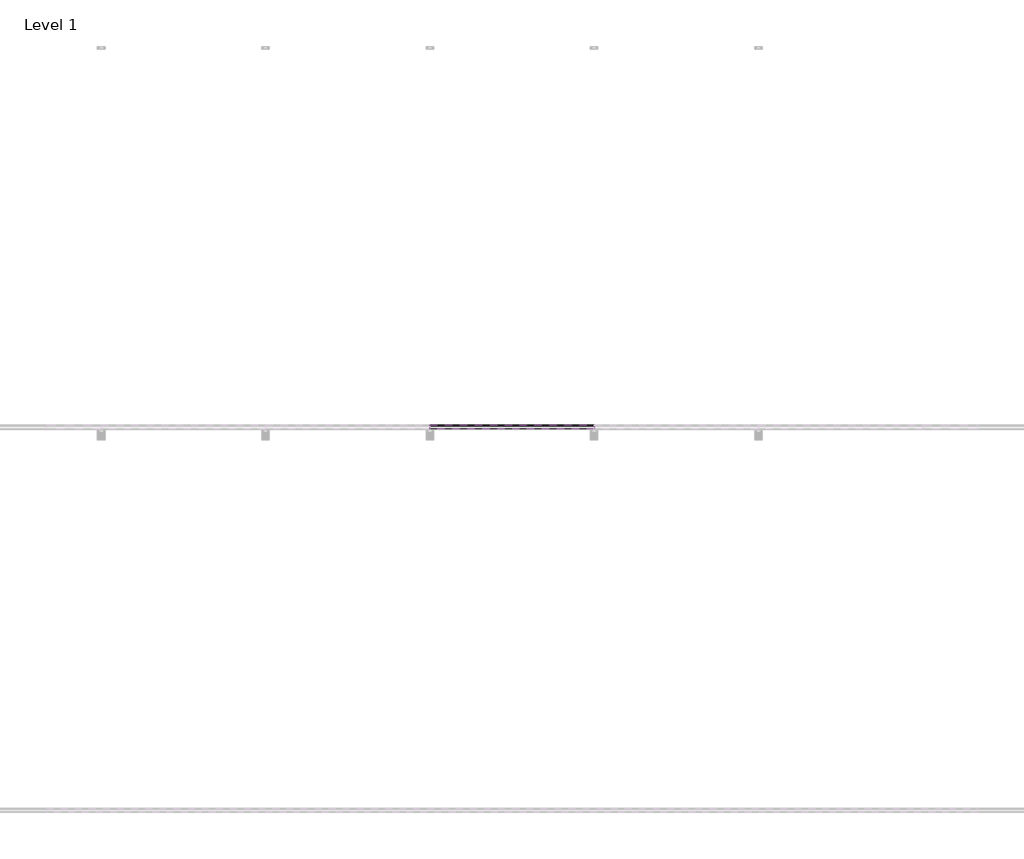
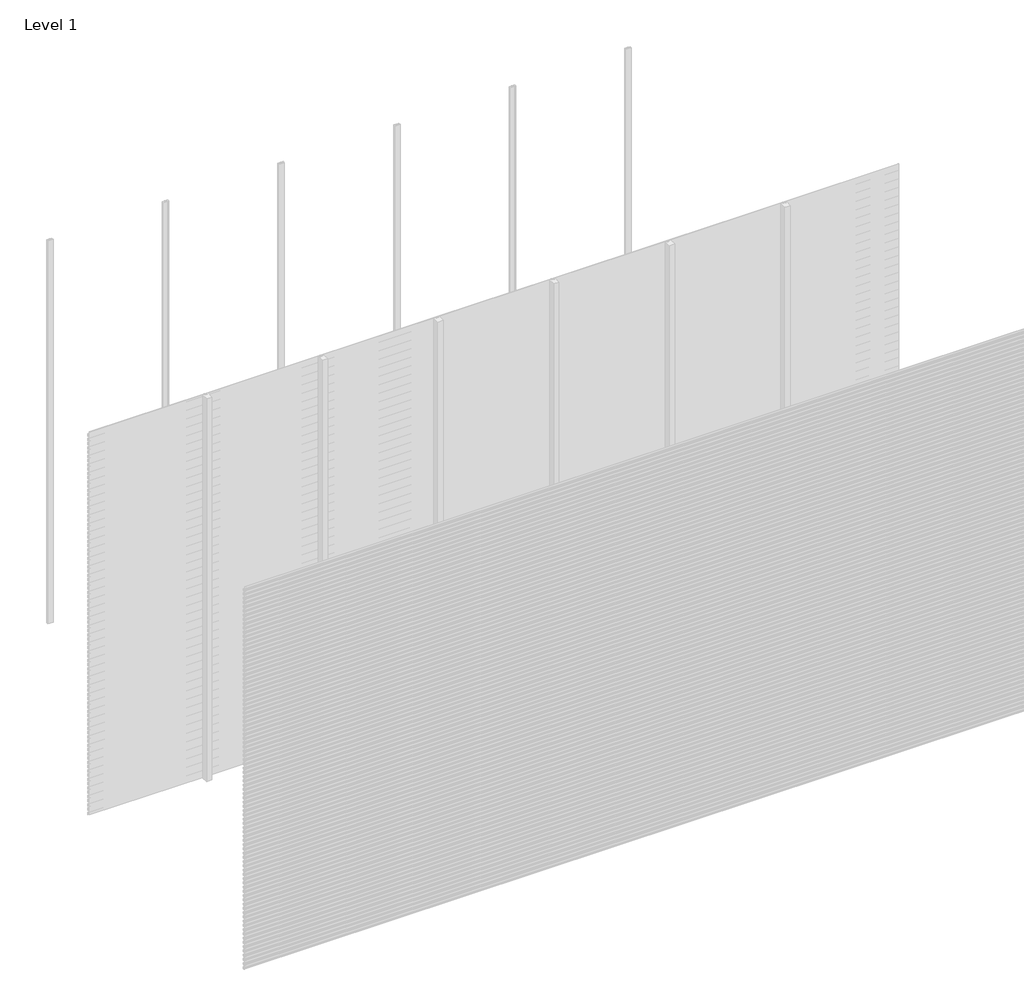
# One storey, part 46 of 96: 76 proxies.
"""IFC4 building model written with IfcOpenShell, lengths in millimetres."""

import ifcopenshell
import ifcopenshell.guid

model = None  # the IFC model being written
_history = None  # IfcOwnerHistory: only IFC2X3 demands one
_inside = {}  # id of a spatial element -> (the spatial element, [elements in it])
_under = {}  # id of a project, library or spatial element -> (it, [spatial elements below it])
_declared = {}  # id of a project -> (the project, [libraries it declares])
_typed = {}  # id of a type object -> (the type object, [elements of that type])
_made_of = {}  # id of a material, layer set ... -> (it, [elements and type objects made of it])


def new_model(schema):
    """Start an empty IFC model of exactly this schema.

    Asked for "IFC4X3", IfcOpenShell would pick the latest addendum, in which some entities
    have other attributes; the version numbers below select the first issue.
    IFC2X3 requires an IfcOwnerHistory on every rooted entity: one is made here for all.
    """
    global model, _history
    if schema == "IFC4X3":
        model = ifcopenshell.file(schema_version=(4, 3, 0, 0))
    else:
        model = ifcopenshell.file(schema=schema)
    _inside.clear()
    _under.clear()
    _declared.clear()
    _typed.clear()
    _made_of.clear()
    _history = None
    if model.schema == "IFC2X3":
        org = make("IfcOrganization", Name="unknown")
        user = make(
            "IfcPersonAndOrganization",
            ThePerson=make("IfcPerson", FamilyName="unknown"),
            TheOrganization=org,
        )
        app = make(
            "IfcApplication",
            ApplicationDeveloper=org,
            Version="unknown",
            ApplicationFullName="unknown",
            ApplicationIdentifier="unknown",
        )
        _history = make(
            "IfcOwnerHistory",
            OwningUser=user,
            OwningApplication=app,
            ChangeAction="ADDED",
            CreationDate=0,
        )
    return model


def make(cls, **values):
    """One entity of the class cls with the attributes given. An attribute that is None is left unset."""
    return model.create_entity(
        cls, **{name: value for name, value in values.items() if value is not None}
    )


def rooted(cls, **values):
    """An entity with a GlobalId (a new one), such as an element, a storey or a relation."""
    return make(cls, GlobalId=ifcopenshell.guid.new(), OwnerHistory=_history, **values)


def si_unit(unit_type, name, prefix=None):
    """IfcSIUnit, for example si_unit("LENGTHUNIT", "METRE", prefix="MILLI")."""
    return make("IfcSIUnit", UnitType=unit_type, Prefix=prefix, Name=name)


def assignment(units):
    """IfcUnitAssignment: the units of a project."""
    return None if units is None else make("IfcUnitAssignment", Units=units)


def point(xyz):
    """IfcCartesianPoint."""
    return None if xyz is None else make("IfcCartesianPoint", Coordinates=xyz)


def direction(xyz):
    """IfcDirection."""
    return None if xyz is None else make("IfcDirection", DirectionRatios=xyz)


def frame(location, z_axis=None, x_axis=None):
    """IfcAxis2Placement3D, a coordinate frame: its origin and axes. An axis left out is left unset."""
    return make(
        "IfcAxis2Placement3D",
        Location=point(location),
        Axis=direction(z_axis),
        RefDirection=direction(x_axis),
    )


def origin():
    """The frame at (0, 0, 0) with its axes left unset."""
    return frame((0.0, 0.0, 0.0))


def place(relative_to, where):
    """IfcLocalPlacement: puts the frame where relative to a parent placement (None: the world)."""
    return make(
        "IfcLocalPlacement", PlacementRelTo=relative_to, RelativePlacement=where
    )


def context(
    kind, dimensions, precision=None, world=None, true_north=None, identifier=None
):
    """IfcGeometricRepresentationContext, for example the 3D "Model" context."""
    return make(
        "IfcGeometricRepresentationContext",
        ContextIdentifier=identifier,
        ContextType=kind,
        CoordinateSpaceDimension=dimensions,
        Precision=precision,
        WorldCoordinateSystem=world,
        TrueNorth=true_north,
    )


def project(units=None, contexts=None):
    """IfcProject with its units and contexts."""
    return rooted(
        "IfcProject",
        Name="project",
        RepresentationContexts=contexts,
        UnitsInContext=assignment(units),
    )


def spatial(cls, under=None, at=None, **own):
    """A site, building, storey or space (cls), placed at a placement, below another one or the project."""
    s = rooted(cls, ObjectPlacement=at, **own)
    if under is not None:
        _under.setdefault(under.id(), (under, []))[1].append(s)
    return s


def polyline(points):
    """IfcPolyline through the points."""
    return make("IfcPolyline", Points=[point(p) for p in points])


def outline(outer, holes=None, kind="AREA"):
    """IfcArbitraryClosedProfileDef: a profile drawn as a closed curve; with holes, ...WithVoids."""
    if holes is None:
        return make("IfcArbitraryClosedProfileDef", ProfileType=kind, OuterCurve=outer)
    return make(
        "IfcArbitraryProfileDefWithVoids",
        ProfileType=kind,
        OuterCurve=outer,
        InnerCurves=holes,
    )


def extrude(swept, where, along, depth):
    """IfcExtrudedAreaSolid: the profile swept, set in the frame where, extruded along a direction by depth."""
    return make(
        "IfcExtrudedAreaSolid",
        SweptArea=swept,
        Position=where,
        ExtrudedDirection=direction(along),
        Depth=depth,
    )


def shape(context_of_items, identifier, shape_type, items):
    """IfcShapeRepresentation: the items that make up one representation, for example the "Body"."""
    return make(
        "IfcShapeRepresentation",
        ContextOfItems=context_of_items,
        RepresentationIdentifier=identifier,
        RepresentationType=shape_type,
        Items=items,
    )


def made_of(thing, what):
    """Note that an element or type object is made of a material, layer set ...; save() writes the relation."""
    if what is not None:
        _made_of.setdefault(what.id(), (what, []))[1].append(thing)
    return thing


def element(
    cls,
    number,
    at=None,
    inside=None,
    cuts=None,
    type_object=None,
    material=None,
    context=None,
    identifier="Body",
    shape_type=None,
    held_by="IfcProductDefinitionShape",
    body=None,
    shapes=None,
    **own,
):
    """One element of the class cls, such as IfcWall. Its Tag is "e" and its number.

    at: its placement. inside: the storey or other place that contains it. cuts: it is an
    opening in that element (IfcRelVoidsElement). A single representation is given by context,
    identifier, shape_type and body (its items); several are given by shapes. held_by: the class
    of the entity that holds the representations. save() writes the other relations.
    """
    e = rooted(cls, Tag="e%d" % number, ObjectPlacement=at, **own)
    if body is not None:
        shapes = [shape(context, identifier, shape_type, body)]
    if shapes is not None:
        e.Representation = make(held_by, Representations=shapes)
    if inside is not None:
        _inside.setdefault(inside.id(), (inside, []))[1].append(e)
    if cuts is not None:
        rooted(
            "IfcRelVoidsElement", RelatingBuildingElement=cuts, RelatedOpeningElement=e
        )
    if type_object is not None:
        _typed.setdefault(type_object.id(), (type_object, []))[1].append(e)
    return made_of(e, material)


def aggregate(whole, parts):
    """IfcRelAggregates: a whole, such as a stair, and the parts it consists of."""
    return rooted("IfcRelAggregates", RelatingObject=whole, RelatedObjects=parts)


def save(model, path):
    """Write the relations noted so far, then the file.

    IfcRelAggregates (storeys below a building ...), IfcRelContainedInSpatialStructure (elements
    in a storey), IfcRelDefinesByType, IfcRelAssociatesMaterial and IfcRelDeclares: one each for
    every whole, place, type object, material and project.
    """
    for whole, parts in _under.values():
        aggregate(whole, parts)
    for where, things in _inside.values():
        rooted(
            "IfcRelContainedInSpatialStructure",
            RelatedElements=things,
            RelatingStructure=where,
        )
    for kind, things in _typed.values():
        rooted("IfcRelDefinesByType", RelatedObjects=things, RelatingType=kind)
    for what, things in _made_of.values():
        rooted("IfcRelAssociatesMaterial", RelatedObjects=things, RelatingMaterial=what)
    for by, libraries in _declared.values():
        rooted("IfcRelDeclares", RelatingContext=by, RelatedDefinitions=libraries)
    model.write(path)


model = new_model("IFC4")

# Units and contexts
model_context = context("Model", 3, world=origin())
ifc_project = project(units=[si_unit("LENGTHUNIT", "METRE", prefix="MILLI")], contexts=[model_context])

# Site, building, storey
site = spatial("IfcSite", under=ifc_project)
building = spatial("IfcBuilding", under=site)
storey = spatial("IfcBuildingStorey", under=building, Name="Level 1", Elevation=0.0)

# Proxies
placement = place(None, origin())
element("IfcBuildingElementProxy", 1, Name="Wall Sweeps", at=placement, inside=storey, context=model_context, shape_type="SweptSolid", body=[
    extrude(outline(polyline([(-29977.6, 2938.4655033), (-29977.6, 2924.1779188), (-29982.4114965, 2921.4), (-29982.4114965, 2922.6701706), (-29978.85, 2924.7264016), (-29978.85, 2937.7437382), (-29998.0, 2948.8000799), (-29998.0, 2963.7), (-29996.75, 2963.7), (-29996.75, 2949.5217609), (-29977.6, 2938.4655033)])), frame((2571.4285714, 0.0, 0.0), z_axis=(1.0, 0.0, 0.0), x_axis=(0.0, 1.0, 0.0)), (0.0, 0.0, 1.0), 857.1428571),
])
element("IfcBuildingElementProxy", 2, Name="Wall Sweeps", at=placement, inside=storey, context=model_context, shape_type="SweptSolid", body=[
    extrude(outline(polyline([(-29977.6, 2905.1655033), (-29977.6, 2890.8779188), (-29982.4114965, 2888.1), (-29982.4114965, 2889.3701706), (-29978.85, 2891.4264016), (-29978.85, 2904.4437382), (-29998.0, 2915.5000799), (-29998.0, 2930.4), (-29996.75, 2930.4), (-29996.75, 2916.2217609), (-29977.6, 2905.1655033)])), frame((2571.4285714, 0.0, 0.0), z_axis=(1.0, 0.0, 0.0), x_axis=(0.0, 1.0, 0.0)), (0.0, 0.0, 1.0), 857.1428571),
])
element("IfcBuildingElementProxy", 3, Name="Wall Sweeps", at=placement, inside=storey, context=model_context, shape_type="SweptSolid", body=[
    extrude(outline(polyline([(-29977.6, 2871.8655033), (-29977.6, 2857.5779188), (-29982.4114965, 2854.8), (-29982.4114965, 2856.0701706), (-29978.85, 2858.1264016), (-29978.85, 2871.1437382), (-29998.0, 2882.2000799), (-29998.0, 2897.1), (-29996.75, 2897.1), (-29996.75, 2882.9217609), (-29977.6, 2871.8655033)])), frame((2571.4285714, 0.0, 0.0), z_axis=(1.0, 0.0, 0.0), x_axis=(0.0, 1.0, 0.0)), (0.0, 0.0, 1.0), 857.1428571),
])
element("IfcBuildingElementProxy", 4, Name="Wall Sweeps", at=placement, inside=storey, context=model_context, shape_type="SweptSolid", body=[
    extrude(outline(polyline([(-29977.6, 2838.5655033), (-29977.6, 2824.2779188), (-29982.4114965, 2821.5), (-29982.4114965, 2822.7701706), (-29978.85, 2824.8264016), (-29978.85, 2837.8437382), (-29998.0, 2848.9000799), (-29998.0, 2863.8), (-29996.75, 2863.8), (-29996.75, 2849.6217609), (-29977.6, 2838.5655033)])), frame((2571.4285714, 0.0, 0.0), z_axis=(1.0, 0.0, 0.0), x_axis=(0.0, 1.0, 0.0)), (0.0, 0.0, 1.0), 857.1428571),
])
element("IfcBuildingElementProxy", 5, Name="Wall Sweeps", at=placement, inside=storey, context=model_context, shape_type="SweptSolid", body=[
    extrude(outline(polyline([(-29977.6, 2805.2655033), (-29977.6, 2790.9779188), (-29982.4114965, 2788.2), (-29982.4114965, 2789.4701706), (-29978.85, 2791.5264016), (-29978.85, 2804.5437382), (-29998.0, 2815.6000799), (-29998.0, 2830.5), (-29996.75, 2830.5), (-29996.75, 2816.3217609), (-29977.6, 2805.2655033)])), frame((2571.4285714, 0.0, 0.0), z_axis=(1.0, 0.0, 0.0), x_axis=(0.0, 1.0, 0.0)), (0.0, 0.0, 1.0), 857.1428571),
])
element("IfcBuildingElementProxy", 6, Name="Wall Sweeps", at=placement, inside=storey, context=model_context, shape_type="SweptSolid", body=[
    extrude(outline(polyline([(-29977.6, 2771.9655033), (-29977.6, 2757.6779188), (-29982.4114965, 2754.9), (-29982.4114965, 2756.1701706), (-29978.85, 2758.2264016), (-29978.85, 2771.2437382), (-29998.0, 2782.3000799), (-29998.0, 2797.2), (-29996.75, 2797.2), (-29996.75, 2783.0217609), (-29977.6, 2771.9655033)])), frame((2571.4285714, 0.0, 0.0), z_axis=(1.0, 0.0, 0.0), x_axis=(0.0, 1.0, 0.0)), (0.0, 0.0, 1.0), 857.1428571),
])
element("IfcBuildingElementProxy", 7, Name="Wall Sweeps", at=placement, inside=storey, context=model_context, shape_type="SweptSolid", body=[
    extrude(outline(polyline([(-29977.6, 2738.6655033), (-29977.6, 2724.3779188), (-29982.4114965, 2721.6), (-29982.4114965, 2722.8701706), (-29978.85, 2724.9264016), (-29978.85, 2737.9437382), (-29998.0, 2749.0000799), (-29998.0, 2763.9), (-29996.75, 2763.9), (-29996.75, 2749.7217609), (-29977.6, 2738.6655033)])), frame((2571.4285714, 0.0, 0.0), z_axis=(1.0, 0.0, 0.0), x_axis=(0.0, 1.0, 0.0)), (0.0, 0.0, 1.0), 857.1428571),
])
element("IfcBuildingElementProxy", 8, Name="Wall Sweeps", at=placement, inside=storey, context=model_context, shape_type="SweptSolid", body=[
    extrude(outline(polyline([(-29977.6, 2705.3655033), (-29977.6, 2691.0779188), (-29982.4114965, 2688.3), (-29982.4114965, 2689.5701706), (-29978.85, 2691.6264016), (-29978.85, 2704.6437382), (-29998.0, 2715.7000799), (-29998.0, 2730.6), (-29996.75, 2730.6), (-29996.75, 2716.4217609), (-29977.6, 2705.3655033)])), frame((2571.4285714, 0.0, 0.0), z_axis=(1.0, 0.0, 0.0), x_axis=(0.0, 1.0, 0.0)), (0.0, 0.0, 1.0), 857.1428571),
])
element("IfcBuildingElementProxy", 9, Name="Wall Sweeps", at=placement, inside=storey, context=model_context, shape_type="SweptSolid", body=[
    extrude(outline(polyline([(-29977.6, 2672.0655033), (-29977.6, 2657.7779188), (-29982.4114965, 2655.0), (-29982.4114965, 2656.2701706), (-29978.85, 2658.3264016), (-29978.85, 2671.3437382), (-29998.0, 2682.4000799), (-29998.0, 2697.3), (-29996.75, 2697.3), (-29996.75, 2683.1217609), (-29977.6, 2672.0655033)])), frame((2571.4285714, 0.0, 0.0), z_axis=(1.0, 0.0, 0.0), x_axis=(0.0, 1.0, 0.0)), (0.0, 0.0, 1.0), 857.1428571),
])
element("IfcBuildingElementProxy", 10, Name="Wall Sweeps", at=placement, inside=storey, context=model_context, shape_type="SweptSolid", body=[
    extrude(outline(polyline([(-29977.6, 2638.7655033), (-29977.6, 2624.4779188), (-29982.4114965, 2621.7), (-29982.4114965, 2622.9701706), (-29978.85, 2625.0264016), (-29978.85, 2638.0437382), (-29998.0, 2649.1000799), (-29998.0, 2664.0), (-29996.75, 2664.0), (-29996.75, 2649.8217609), (-29977.6, 2638.7655033)])), frame((2571.4285714, 0.0, 0.0), z_axis=(1.0, 0.0, 0.0), x_axis=(0.0, 1.0, 0.0)), (0.0, 0.0, 1.0), 857.1428571),
])
element("IfcBuildingElementProxy", 11, Name="Wall Sweeps", at=placement, inside=storey, context=model_context, shape_type="SweptSolid", body=[
    extrude(outline(polyline([(-29977.6, 2605.4655033), (-29977.6, 2591.1779188), (-29982.4114965, 2588.4), (-29982.4114965, 2589.6701706), (-29978.85, 2591.7264016), (-29978.85, 2604.7437382), (-29998.0, 2615.8000799), (-29998.0, 2630.7), (-29996.75, 2630.7), (-29996.75, 2616.5217609), (-29977.6, 2605.4655033)])), frame((2571.4285714, 0.0, 0.0), z_axis=(1.0, 0.0, 0.0), x_axis=(0.0, 1.0, 0.0)), (0.0, 0.0, 1.0), 857.1428571),
])
element("IfcBuildingElementProxy", 12, Name="Wall Sweeps", at=placement, inside=storey, context=model_context, shape_type="SweptSolid", body=[
    extrude(outline(polyline([(-29977.6, 2572.1655033), (-29977.6, 2557.8779188), (-29982.4114965, 2555.1), (-29982.4114965, 2556.3701706), (-29978.85, 2558.4264016), (-29978.85, 2571.4437382), (-29998.0, 2582.5000799), (-29998.0, 2597.4), (-29996.75, 2597.4), (-29996.75, 2583.2217609), (-29977.6, 2572.1655033)])), frame((2571.4285714, 0.0, 0.0), z_axis=(1.0, 0.0, 0.0), x_axis=(0.0, 1.0, 0.0)), (0.0, 0.0, 1.0), 857.1428571),
])
element("IfcBuildingElementProxy", 13, Name="Wall Sweeps", at=placement, inside=storey, context=model_context, shape_type="SweptSolid", body=[
    extrude(outline(polyline([(-29977.6, 2538.8655033), (-29977.6, 2524.5779188), (-29982.4114965, 2521.8), (-29982.4114965, 2523.0701706), (-29978.85, 2525.1264016), (-29978.85, 2538.1437382), (-29998.0, 2549.2000799), (-29998.0, 2564.1), (-29996.75, 2564.1), (-29996.75, 2549.9217609), (-29977.6, 2538.8655033)])), frame((2571.4285714, 0.0, 0.0), z_axis=(1.0, 0.0, 0.0), x_axis=(0.0, 1.0, 0.0)), (0.0, 0.0, 1.0), 857.1428571),
])
element("IfcBuildingElementProxy", 14, Name="Wall Sweeps", at=placement, inside=storey, context=model_context, shape_type="SweptSolid", body=[
    extrude(outline(polyline([(-29977.6, 2505.5655033), (-29977.6, 2491.2779188), (-29982.4114965, 2488.5), (-29982.4114965, 2489.7701706), (-29978.85, 2491.8264016), (-29978.85, 2504.8437382), (-29998.0, 2515.9000799), (-29998.0, 2530.8), (-29996.75, 2530.8), (-29996.75, 2516.6217609), (-29977.6, 2505.5655033)])), frame((2571.4285714, 0.0, 0.0), z_axis=(1.0, 0.0, 0.0), x_axis=(0.0, 1.0, 0.0)), (0.0, 0.0, 1.0), 857.1428571),
])
element("IfcBuildingElementProxy", 15, Name="Wall Sweeps", at=placement, inside=storey, context=model_context, shape_type="SweptSolid", body=[
    extrude(outline(polyline([(-29977.6, 2472.2655033), (-29977.6, 2457.9779188), (-29982.4114965, 2455.2), (-29982.4114965, 2456.4701706), (-29978.85, 2458.5264016), (-29978.85, 2471.5437382), (-29998.0, 2482.6000799), (-29998.0, 2497.5), (-29996.75, 2497.5), (-29996.75, 2483.3217609), (-29977.6, 2472.2655033)])), frame((2571.4285714, 0.0, 0.0), z_axis=(1.0, 0.0, 0.0), x_axis=(0.0, 1.0, 0.0)), (0.0, 0.0, 1.0), 857.1428571),
])
element("IfcBuildingElementProxy", 16, Name="Wall Sweeps", at=placement, inside=storey, context=model_context, shape_type="SweptSolid", body=[
    extrude(outline(polyline([(-29977.6, 2438.9655033), (-29977.6, 2424.6779188), (-29982.4114965, 2421.9), (-29982.4114965, 2423.1701706), (-29978.85, 2425.2264016), (-29978.85, 2438.2437382), (-29998.0, 2449.3000799), (-29998.0, 2464.2), (-29996.75, 2464.2), (-29996.75, 2450.0217609), (-29977.6, 2438.9655033)])), frame((2571.4285714, 0.0, 0.0), z_axis=(1.0, 0.0, 0.0), x_axis=(0.0, 1.0, 0.0)), (0.0, 0.0, 1.0), 857.1428571),
])
element("IfcBuildingElementProxy", 17, Name="Wall Sweeps", at=placement, inside=storey, context=model_context, shape_type="SweptSolid", body=[
    extrude(outline(polyline([(-29977.6, 2405.6655033), (-29977.6, 2391.3779188), (-29982.4114965, 2388.6), (-29982.4114965, 2389.8701706), (-29978.85, 2391.9264016), (-29978.85, 2404.9437382), (-29998.0, 2416.0000799), (-29998.0, 2430.9), (-29996.75, 2430.9), (-29996.75, 2416.7217609), (-29977.6, 2405.6655033)])), frame((2571.4285714, 0.0, 0.0), z_axis=(1.0, 0.0, 0.0), x_axis=(0.0, 1.0, 0.0)), (0.0, 0.0, 1.0), 857.1428571),
])
element("IfcBuildingElementProxy", 18, Name="Wall Sweeps", at=placement, inside=storey, context=model_context, shape_type="SweptSolid", body=[
    extrude(outline(polyline([(-29977.6, 2372.3655033), (-29977.6, 2358.0779188), (-29982.4114965, 2355.3), (-29982.4114965, 2356.5701706), (-29978.85, 2358.6264016), (-29978.85, 2371.6437382), (-29998.0, 2382.7000799), (-29998.0, 2397.6), (-29996.75, 2397.6), (-29996.75, 2383.4217609), (-29977.6, 2372.3655033)])), frame((2571.4285714, 0.0, 0.0), z_axis=(1.0, 0.0, 0.0), x_axis=(0.0, 1.0, 0.0)), (0.0, 0.0, 1.0), 857.1428571),
])
element("IfcBuildingElementProxy", 19, Name="Wall Sweeps", at=placement, inside=storey, context=model_context, shape_type="SweptSolid", body=[
    extrude(outline(polyline([(-29977.6, 2339.0655033), (-29977.6, 2324.7779188), (-29982.4114965, 2322.0), (-29982.4114965, 2323.2701706), (-29978.85, 2325.3264016), (-29978.85, 2338.3437382), (-29998.0, 2349.4000799), (-29998.0, 2364.3), (-29996.75, 2364.3), (-29996.75, 2350.1217609), (-29977.6, 2339.0655033)])), frame((2571.4285714, 0.0, 0.0), z_axis=(1.0, 0.0, 0.0), x_axis=(0.0, 1.0, 0.0)), (0.0, 0.0, 1.0), 857.1428571),
])
element("IfcBuildingElementProxy", 20, Name="Wall Sweeps", at=placement, inside=storey, context=model_context, shape_type="SweptSolid", body=[
    extrude(outline(polyline([(-29977.6, 2305.7655033), (-29977.6, 2291.4779188), (-29982.4114965, 2288.7), (-29982.4114965, 2289.9701706), (-29978.85, 2292.0264016), (-29978.85, 2305.0437382), (-29998.0, 2316.1000799), (-29998.0, 2331.0), (-29996.75, 2331.0), (-29996.75, 2316.8217609), (-29977.6, 2305.7655033)])), frame((2571.4285714, 0.0, 0.0), z_axis=(1.0, 0.0, 0.0), x_axis=(0.0, 1.0, 0.0)), (0.0, 0.0, 1.0), 857.1428571),
])
element("IfcBuildingElementProxy", 21, Name="Wall Sweeps", at=placement, inside=storey, context=model_context, shape_type="SweptSolid", body=[
    extrude(outline(polyline([(-29977.6, 2272.4655033), (-29977.6, 2258.1779188), (-29982.4114965, 2255.4), (-29982.4114965, 2256.6701706), (-29978.85, 2258.7264016), (-29978.85, 2271.7437382), (-29998.0, 2282.8000799), (-29998.0, 2297.7), (-29996.75, 2297.7), (-29996.75, 2283.5217609), (-29977.6, 2272.4655033)])), frame((2571.4285714, 0.0, 0.0), z_axis=(1.0, 0.0, 0.0), x_axis=(0.0, 1.0, 0.0)), (0.0, 0.0, 1.0), 857.1428571),
])
element("IfcBuildingElementProxy", 22, Name="Wall Sweeps", at=placement, inside=storey, context=model_context, shape_type="SweptSolid", body=[
    extrude(outline(polyline([(-29977.6, 2239.1655033), (-29977.6, 2224.8779188), (-29982.4114965, 2222.1), (-29982.4114965, 2223.3701706), (-29978.85, 2225.4264016), (-29978.85, 2238.4437382), (-29998.0, 2249.5000799), (-29998.0, 2264.4), (-29996.75, 2264.4), (-29996.75, 2250.2217609), (-29977.6, 2239.1655033)])), frame((2571.4285714, 0.0, 0.0), z_axis=(1.0, 0.0, 0.0), x_axis=(0.0, 1.0, 0.0)), (0.0, 0.0, 1.0), 857.1428571),
])
element("IfcBuildingElementProxy", 23, Name="Wall Sweeps", at=placement, inside=storey, context=model_context, shape_type="SweptSolid", body=[
    extrude(outline(polyline([(-29977.6, 2205.8655033), (-29977.6, 2191.5779188), (-29982.4114965, 2188.8), (-29982.4114965, 2190.0701706), (-29978.85, 2192.1264016), (-29978.85, 2205.1437382), (-29998.0, 2216.2000799), (-29998.0, 2231.1), (-29996.75, 2231.1), (-29996.75, 2216.9217609), (-29977.6, 2205.8655033)])), frame((2571.4285714, 0.0, 0.0), z_axis=(1.0, 0.0, 0.0), x_axis=(0.0, 1.0, 0.0)), (0.0, 0.0, 1.0), 857.1428571),
])
element("IfcBuildingElementProxy", 24, Name="Wall Sweeps", at=placement, inside=storey, context=model_context, shape_type="SweptSolid", body=[
    extrude(outline(polyline([(-29977.6, 2172.5655033), (-29977.6, 2158.2779188), (-29982.4114965, 2155.5), (-29982.4114965, 2156.7701706), (-29978.85, 2158.8264016), (-29978.85, 2171.8437382), (-29998.0, 2182.9000799), (-29998.0, 2197.8), (-29996.75, 2197.8), (-29996.75, 2183.6217609), (-29977.6, 2172.5655033)])), frame((2571.4285714, 0.0, 0.0), z_axis=(1.0, 0.0, 0.0), x_axis=(0.0, 1.0, 0.0)), (0.0, 0.0, 1.0), 857.1428571),
])
element("IfcBuildingElementProxy", 25, Name="Wall Sweeps", at=placement, inside=storey, context=model_context, shape_type="SweptSolid", body=[
    extrude(outline(polyline([(-29977.6, 2139.2655033), (-29977.6, 2124.9779188), (-29982.4114965, 2122.2), (-29982.4114965, 2123.4701706), (-29978.85, 2125.5264016), (-29978.85, 2138.5437382), (-29998.0, 2149.6000799), (-29998.0, 2164.5), (-29996.75, 2164.5), (-29996.75, 2150.3217609), (-29977.6, 2139.2655033)])), frame((2571.4285714, 0.0, 0.0), z_axis=(1.0, 0.0, 0.0), x_axis=(0.0, 1.0, 0.0)), (0.0, 0.0, 1.0), 857.1428571),
])
element("IfcBuildingElementProxy", 26, Name="Wall Sweeps", at=placement, inside=storey, context=model_context, shape_type="SweptSolid", body=[
    extrude(outline(polyline([(-29977.6, 2105.9655033), (-29977.6, 2091.6779188), (-29982.4114965, 2088.9), (-29982.4114965, 2090.1701706), (-29978.85, 2092.2264016), (-29978.85, 2105.2437382), (-29998.0, 2116.3000799), (-29998.0, 2131.2), (-29996.75, 2131.2), (-29996.75, 2117.0217609), (-29977.6, 2105.9655033)])), frame((2571.4285714, 0.0, 0.0), z_axis=(1.0, 0.0, 0.0), x_axis=(0.0, 1.0, 0.0)), (0.0, 0.0, 1.0), 857.1428571),
])
element("IfcBuildingElementProxy", 27, Name="Wall Sweeps", at=placement, inside=storey, context=model_context, shape_type="SweptSolid", body=[
    extrude(outline(polyline([(-29977.6, 2072.6655033), (-29977.6, 2058.3779188), (-29982.4114965, 2055.6), (-29982.4114965, 2056.8701706), (-29978.85, 2058.9264016), (-29978.85, 2071.9437382), (-29998.0, 2083.0000799), (-29998.0, 2097.9), (-29996.75, 2097.9), (-29996.75, 2083.7217609), (-29977.6, 2072.6655033)])), frame((2571.4285714, 0.0, 0.0), z_axis=(1.0, 0.0, 0.0), x_axis=(0.0, 1.0, 0.0)), (0.0, 0.0, 1.0), 857.1428571),
])
element("IfcBuildingElementProxy", 28, Name="Wall Sweeps", at=placement, inside=storey, context=model_context, shape_type="SweptSolid", body=[
    extrude(outline(polyline([(-29977.6, 2039.3655033), (-29977.6, 2025.0779188), (-29982.4114965, 2022.3), (-29982.4114965, 2023.5701706), (-29978.85, 2025.6264016), (-29978.85, 2038.6437382), (-29998.0, 2049.7000799), (-29998.0, 2064.6), (-29996.75, 2064.6), (-29996.75, 2050.4217609), (-29977.6, 2039.3655033)])), frame((2571.4285714, 0.0, 0.0), z_axis=(1.0, 0.0, 0.0), x_axis=(0.0, 1.0, 0.0)), (0.0, 0.0, 1.0), 857.1428571),
])
element("IfcBuildingElementProxy", 29, Name="Wall Sweeps", at=placement, inside=storey, context=model_context, shape_type="SweptSolid", body=[
    extrude(outline(polyline([(-29977.6, 2006.0655033), (-29977.6, 1991.7779188), (-29982.4114965, 1989.0), (-29982.4114965, 1990.2701706), (-29978.85, 1992.3264016), (-29978.85, 2005.3437382), (-29998.0, 2016.4000799), (-29998.0, 2031.3), (-29996.75, 2031.3), (-29996.75, 2017.1217609), (-29977.6, 2006.0655033)])), frame((2571.4285714, 0.0, 0.0), z_axis=(1.0, 0.0, 0.0), x_axis=(0.0, 1.0, 0.0)), (0.0, 0.0, 1.0), 857.1428571),
])
element("IfcBuildingElementProxy", 30, Name="Wall Sweeps", at=placement, inside=storey, context=model_context, shape_type="SweptSolid", body=[
    extrude(outline(polyline([(-29977.6, 1972.7655033), (-29977.6, 1958.4779188), (-29982.4114965, 1955.7), (-29982.4114965, 1956.9701706), (-29978.85, 1959.0264016), (-29978.85, 1972.0437382), (-29998.0, 1983.1000799), (-29998.0, 1998.0), (-29996.75, 1998.0), (-29996.75, 1983.8217609), (-29977.6, 1972.7655033)])), frame((2571.4285714, 0.0, 0.0), z_axis=(1.0, 0.0, 0.0), x_axis=(0.0, 1.0, 0.0)), (0.0, 0.0, 1.0), 857.1428571),
])
element("IfcBuildingElementProxy", 31, Name="Wall Sweeps", at=placement, inside=storey, context=model_context, shape_type="SweptSolid", body=[
    extrude(outline(polyline([(-29977.6, 1939.4655033), (-29977.6, 1925.1779188), (-29982.4114965, 1922.4), (-29982.4114965, 1923.6701706), (-29978.85, 1925.7264016), (-29978.85, 1938.7437382), (-29998.0, 1949.8000799), (-29998.0, 1964.7), (-29996.75, 1964.7), (-29996.75, 1950.5217609), (-29977.6, 1939.4655033)])), frame((2571.4285714, 0.0, 0.0), z_axis=(1.0, 0.0, 0.0), x_axis=(0.0, 1.0, 0.0)), (0.0, 0.0, 1.0), 857.1428571),
])
element("IfcBuildingElementProxy", 32, Name="Wall Sweeps", at=placement, inside=storey, context=model_context, shape_type="SweptSolid", body=[
    extrude(outline(polyline([(-29977.6, 1906.1655033), (-29977.6, 1891.8779188), (-29982.4114965, 1889.1), (-29982.4114965, 1890.3701706), (-29978.85, 1892.4264016), (-29978.85, 1905.4437382), (-29998.0, 1916.5000799), (-29998.0, 1931.4), (-29996.75, 1931.4), (-29996.75, 1917.2217609), (-29977.6, 1906.1655033)])), frame((2571.4285714, 0.0, 0.0), z_axis=(1.0, 0.0, 0.0), x_axis=(0.0, 1.0, 0.0)), (0.0, 0.0, 1.0), 857.1428571),
])
element("IfcBuildingElementProxy", 33, Name="Wall Sweeps", at=placement, inside=storey, context=model_context, shape_type="SweptSolid", body=[
    extrude(outline(polyline([(-29977.6, 1872.8655033), (-29977.6, 1858.5779188), (-29982.4114965, 1855.8), (-29982.4114965, 1857.0701706), (-29978.85, 1859.1264016), (-29978.85, 1872.1437382), (-29998.0, 1883.2000799), (-29998.0, 1898.1), (-29996.75, 1898.1), (-29996.75, 1883.9217609), (-29977.6, 1872.8655033)])), frame((2571.4285714, 0.0, 0.0), z_axis=(1.0, 0.0, 0.0), x_axis=(0.0, 1.0, 0.0)), (0.0, 0.0, 1.0), 857.1428571),
])
element("IfcBuildingElementProxy", 34, Name="Wall Sweeps", at=placement, inside=storey, context=model_context, shape_type="SweptSolid", body=[
    extrude(outline(polyline([(-29977.6, 1839.5655033), (-29977.6, 1825.2779188), (-29982.4114965, 1822.5), (-29982.4114965, 1823.7701706), (-29978.85, 1825.8264016), (-29978.85, 1838.8437382), (-29998.0, 1849.9000799), (-29998.0, 1864.8), (-29996.75, 1864.8), (-29996.75, 1850.6217609), (-29977.6, 1839.5655033)])), frame((2571.4285714, 0.0, 0.0), z_axis=(1.0, 0.0, 0.0), x_axis=(0.0, 1.0, 0.0)), (0.0, 0.0, 1.0), 857.1428571),
])
element("IfcBuildingElementProxy", 35, Name="Wall Sweeps", at=placement, inside=storey, context=model_context, shape_type="SweptSolid", body=[
    extrude(outline(polyline([(-29977.6, 1806.2655033), (-29977.6, 1791.9779188), (-29982.4114965, 1789.2), (-29982.4114965, 1790.4701706), (-29978.85, 1792.5264016), (-29978.85, 1805.5437382), (-29998.0, 1816.6000799), (-29998.0, 1831.5), (-29996.75, 1831.5), (-29996.75, 1817.3217609), (-29977.6, 1806.2655033)])), frame((2571.4285714, 0.0, 0.0), z_axis=(1.0, 0.0, 0.0), x_axis=(0.0, 1.0, 0.0)), (0.0, 0.0, 1.0), 857.1428571),
])
element("IfcBuildingElementProxy", 36, Name="Wall Sweeps", at=placement, inside=storey, context=model_context, shape_type="SweptSolid", body=[
    extrude(outline(polyline([(-29977.6, 1772.9655033), (-29977.6, 1758.6779188), (-29982.4114965, 1755.9), (-29982.4114965, 1757.1701706), (-29978.85, 1759.2264016), (-29978.85, 1772.2437382), (-29998.0, 1783.3000799), (-29998.0, 1798.2), (-29996.75, 1798.2), (-29996.75, 1784.0217609), (-29977.6, 1772.9655033)])), frame((2571.4285714, 0.0, 0.0), z_axis=(1.0, 0.0, 0.0), x_axis=(0.0, 1.0, 0.0)), (0.0, 0.0, 1.0), 857.1428571),
])
element("IfcBuildingElementProxy", 37, Name="Wall Sweeps", at=placement, inside=storey, context=model_context, shape_type="SweptSolid", body=[
    extrude(outline(polyline([(-29977.6, 1739.6655033), (-29977.6, 1725.3779188), (-29982.4114965, 1722.6), (-29982.4114965, 1723.8701706), (-29978.85, 1725.9264016), (-29978.85, 1738.9437382), (-29998.0, 1750.0000799), (-29998.0, 1764.9), (-29996.75, 1764.9), (-29996.75, 1750.7217609), (-29977.6, 1739.6655033)])), frame((2571.4285714, 0.0, 0.0), z_axis=(1.0, 0.0, 0.0), x_axis=(0.0, 1.0, 0.0)), (0.0, 0.0, 1.0), 857.1428571),
])
element("IfcBuildingElementProxy", 38, Name="Wall Sweeps", at=placement, inside=storey, context=model_context, shape_type="SweptSolid", body=[
    extrude(outline(polyline([(-29977.6, 1706.3655033), (-29977.6, 1692.0779188), (-29982.4114965, 1689.3), (-29982.4114965, 1690.5701706), (-29978.85, 1692.6264016), (-29978.85, 1705.6437382), (-29998.0, 1716.7000799), (-29998.0, 1731.6), (-29996.75, 1731.6), (-29996.75, 1717.4217609), (-29977.6, 1706.3655033)])), frame((2571.4285714, 0.0, 0.0), z_axis=(1.0, 0.0, 0.0), x_axis=(0.0, 1.0, 0.0)), (0.0, 0.0, 1.0), 857.1428571),
])
element("IfcBuildingElementProxy", 39, Name="Wall Sweeps", at=placement, inside=storey, context=model_context, shape_type="SweptSolid", body=[
    extrude(outline(polyline([(-29977.6, 1673.0655033), (-29977.6, 1658.7779188), (-29982.4114965, 1656.0), (-29982.4114965, 1657.2701706), (-29978.85, 1659.3264016), (-29978.85, 1672.3437382), (-29998.0, 1683.4000799), (-29998.0, 1698.3), (-29996.75, 1698.3), (-29996.75, 1684.1217609), (-29977.6, 1673.0655033)])), frame((2571.4285714, 0.0, 0.0), z_axis=(1.0, 0.0, 0.0), x_axis=(0.0, 1.0, 0.0)), (0.0, 0.0, 1.0), 857.1428571),
])
element("IfcBuildingElementProxy", 40, Name="Wall Sweeps", at=placement, inside=storey, context=model_context, shape_type="SweptSolid", body=[
    extrude(outline(polyline([(-29977.6, 1639.7655033), (-29977.6, 1625.4779188), (-29982.4114965, 1622.7), (-29982.4114965, 1623.9701706), (-29978.85, 1626.0264016), (-29978.85, 1639.0437382), (-29998.0, 1650.1000799), (-29998.0, 1665.0), (-29996.75, 1665.0), (-29996.75, 1650.8217609), (-29977.6, 1639.7655033)])), frame((2571.4285714, 0.0, 0.0), z_axis=(1.0, 0.0, 0.0), x_axis=(0.0, 1.0, 0.0)), (0.0, 0.0, 1.0), 857.1428571),
])
element("IfcBuildingElementProxy", 41, Name="Wall Sweeps", at=placement, inside=storey, context=model_context, shape_type="SweptSolid", body=[
    extrude(outline(polyline([(-29977.6, 1606.4655033), (-29977.6, 1592.1779188), (-29982.4114965, 1589.4), (-29982.4114965, 1590.6701706), (-29978.85, 1592.7264016), (-29978.85, 1605.7437382), (-29998.0, 1616.8000799), (-29998.0, 1631.7), (-29996.75, 1631.7), (-29996.75, 1617.5217609), (-29977.6, 1606.4655033)])), frame((2571.4285714, 0.0, 0.0), z_axis=(1.0, 0.0, 0.0), x_axis=(0.0, 1.0, 0.0)), (0.0, 0.0, 1.0), 857.1428571),
])
element("IfcBuildingElementProxy", 42, Name="Wall Sweeps", at=placement, inside=storey, context=model_context, shape_type="SweptSolid", body=[
    extrude(outline(polyline([(-29977.6, 1573.1655033), (-29977.6, 1558.8779188), (-29982.4114965, 1556.1), (-29982.4114965, 1557.3701706), (-29978.85, 1559.4264016), (-29978.85, 1572.4437382), (-29998.0, 1583.5000799), (-29998.0, 1598.4), (-29996.75, 1598.4), (-29996.75, 1584.2217609), (-29977.6, 1573.1655033)])), frame((2571.4285714, 0.0, 0.0), z_axis=(1.0, 0.0, 0.0), x_axis=(0.0, 1.0, 0.0)), (0.0, 0.0, 1.0), 857.1428571),
])
element("IfcBuildingElementProxy", 43, Name="Wall Sweeps", at=placement, inside=storey, context=model_context, shape_type="SweptSolid", body=[
    extrude(outline(polyline([(-29977.6, 1539.8655033), (-29977.6, 1525.5779188), (-29982.4114965, 1522.8), (-29982.4114965, 1524.0701706), (-29978.85, 1526.1264016), (-29978.85, 1539.1437382), (-29998.0, 1550.2000799), (-29998.0, 1565.1), (-29996.75, 1565.1), (-29996.75, 1550.9217609), (-29977.6, 1539.8655033)])), frame((2571.4285714, 0.0, 0.0), z_axis=(1.0, 0.0, 0.0), x_axis=(0.0, 1.0, 0.0)), (0.0, 0.0, 1.0), 857.1428571),
])
element("IfcBuildingElementProxy", 44, Name="Wall Sweeps", at=placement, inside=storey, context=model_context, shape_type="SweptSolid", body=[
    extrude(outline(polyline([(-29977.6, 1506.5655033), (-29977.6, 1492.2779188), (-29982.4114965, 1489.5), (-29982.4114965, 1490.7701706), (-29978.85, 1492.8264016), (-29978.85, 1505.8437382), (-29998.0, 1516.9000799), (-29998.0, 1531.8), (-29996.75, 1531.8), (-29996.75, 1517.6217609), (-29977.6, 1506.5655033)])), frame((2571.4285714, 0.0, 0.0), z_axis=(1.0, 0.0, 0.0), x_axis=(0.0, 1.0, 0.0)), (0.0, 0.0, 1.0), 857.1428571),
])
element("IfcBuildingElementProxy", 45, Name="Wall Sweeps", at=placement, inside=storey, context=model_context, shape_type="SweptSolid", body=[
    extrude(outline(polyline([(-29977.6, 1473.2655033), (-29977.6, 1458.9779188), (-29982.4114965, 1456.2), (-29982.4114965, 1457.4701706), (-29978.85, 1459.5264016), (-29978.85, 1472.5437382), (-29998.0, 1483.6000799), (-29998.0, 1498.5), (-29996.75, 1498.5), (-29996.75, 1484.3217609), (-29977.6, 1473.2655033)])), frame((2571.4285714, 0.0, 0.0), z_axis=(1.0, 0.0, 0.0), x_axis=(0.0, 1.0, 0.0)), (0.0, 0.0, 1.0), 857.1428571),
])
element("IfcBuildingElementProxy", 46, Name="Wall Sweeps", at=placement, inside=storey, context=model_context, shape_type="SweptSolid", body=[
    extrude(outline(polyline([(-29977.6, 1439.9655033), (-29977.6, 1425.6779188), (-29982.4114965, 1422.9), (-29982.4114965, 1424.1701706), (-29978.85, 1426.2264016), (-29978.85, 1439.2437382), (-29998.0, 1450.3000799), (-29998.0, 1465.2), (-29996.75, 1465.2), (-29996.75, 1451.0217609), (-29977.6, 1439.9655033)])), frame((2571.4285714, 0.0, 0.0), z_axis=(1.0, 0.0, 0.0), x_axis=(0.0, 1.0, 0.0)), (0.0, 0.0, 1.0), 857.1428571),
])
element("IfcBuildingElementProxy", 47, Name="Wall Sweeps", at=placement, inside=storey, context=model_context, shape_type="SweptSolid", body=[
    extrude(outline(polyline([(-29977.6, 1406.6655033), (-29977.6, 1392.3779188), (-29982.4114965, 1389.6), (-29982.4114965, 1390.8701706), (-29978.85, 1392.9264016), (-29978.85, 1405.9437382), (-29998.0, 1417.0000799), (-29998.0, 1431.9), (-29996.75, 1431.9), (-29996.75, 1417.7217609), (-29977.6, 1406.6655033)])), frame((2571.4285714, 0.0, 0.0), z_axis=(1.0, 0.0, 0.0), x_axis=(0.0, 1.0, 0.0)), (0.0, 0.0, 1.0), 857.1428571),
])
element("IfcBuildingElementProxy", 48, Name="Wall Sweeps", at=placement, inside=storey, context=model_context, shape_type="SweptSolid", body=[
    extrude(outline(polyline([(-29977.6, 1373.3655033), (-29977.6, 1359.0779188), (-29982.4114965, 1356.3), (-29982.4114965, 1357.5701706), (-29978.85, 1359.6264016), (-29978.85, 1372.6437382), (-29998.0, 1383.7000799), (-29998.0, 1398.6), (-29996.75, 1398.6), (-29996.75, 1384.4217609), (-29977.6, 1373.3655033)])), frame((2571.4285714, 0.0, 0.0), z_axis=(1.0, 0.0, 0.0), x_axis=(0.0, 1.0, 0.0)), (0.0, 0.0, 1.0), 857.1428571),
])
element("IfcBuildingElementProxy", 49, Name="Wall Sweeps", at=placement, inside=storey, context=model_context, shape_type="SweptSolid", body=[
    extrude(outline(polyline([(-29977.6, 1340.0655033), (-29977.6, 1325.7779188), (-29982.4114965, 1323.0), (-29982.4114965, 1324.2701706), (-29978.85, 1326.3264016), (-29978.85, 1339.3437382), (-29998.0, 1350.4000799), (-29998.0, 1365.3), (-29996.75, 1365.3), (-29996.75, 1351.1217609), (-29977.6, 1340.0655033)])), frame((2571.4285714, 0.0, 0.0), z_axis=(1.0, 0.0, 0.0), x_axis=(0.0, 1.0, 0.0)), (0.0, 0.0, 1.0), 857.1428571),
])
element("IfcBuildingElementProxy", 50, Name="Wall Sweeps", at=placement, inside=storey, context=model_context, shape_type="SweptSolid", body=[
    extrude(outline(polyline([(-29977.6, 1306.7655033), (-29977.6, 1292.4779188), (-29982.4114965, 1289.7), (-29982.4114965, 1290.9701706), (-29978.85, 1293.0264016), (-29978.85, 1306.0437382), (-29998.0, 1317.1000799), (-29998.0, 1332.0), (-29996.75, 1332.0), (-29996.75, 1317.8217609), (-29977.6, 1306.7655033)])), frame((2571.4285714, 0.0, 0.0), z_axis=(1.0, 0.0, 0.0), x_axis=(0.0, 1.0, 0.0)), (0.0, 0.0, 1.0), 857.1428571),
])
element("IfcBuildingElementProxy", 51, Name="Wall Sweeps", at=placement, inside=storey, context=model_context, shape_type="SweptSolid", body=[
    extrude(outline(polyline([(-29977.6, 1273.4655033), (-29977.6, 1259.1779188), (-29982.4114965, 1256.4), (-29982.4114965, 1257.6701706), (-29978.85, 1259.7264016), (-29978.85, 1272.7437382), (-29998.0, 1283.8000799), (-29998.0, 1298.7), (-29996.75, 1298.7), (-29996.75, 1284.5217609), (-29977.6, 1273.4655033)])), frame((2571.4285714, 0.0, 0.0), z_axis=(1.0, 0.0, 0.0), x_axis=(0.0, 1.0, 0.0)), (0.0, 0.0, 1.0), 857.1428571),
])
element("IfcBuildingElementProxy", 52, Name="Wall Sweeps", at=placement, inside=storey, context=model_context, shape_type="SweptSolid", body=[
    extrude(outline(polyline([(-29977.6, 1240.1655033), (-29977.6, 1225.8779188), (-29982.4114965, 1223.1), (-29982.4114965, 1224.3701706), (-29978.85, 1226.4264016), (-29978.85, 1239.4437382), (-29998.0, 1250.5000799), (-29998.0, 1265.4), (-29996.75, 1265.4), (-29996.75, 1251.2217609), (-29977.6, 1240.1655033)])), frame((2571.4285714, 0.0, 0.0), z_axis=(1.0, 0.0, 0.0), x_axis=(0.0, 1.0, 0.0)), (0.0, 0.0, 1.0), 857.1428571),
])
element("IfcBuildingElementProxy", 53, Name="Wall Sweeps", at=placement, inside=storey, context=model_context, shape_type="SweptSolid", body=[
    extrude(outline(polyline([(-29977.6, 1206.8655033), (-29977.6, 1192.5779188), (-29982.4114965, 1189.8), (-29982.4114965, 1191.0701706), (-29978.85, 1193.1264016), (-29978.85, 1206.1437382), (-29998.0, 1217.2000799), (-29998.0, 1232.1), (-29996.75, 1232.1), (-29996.75, 1217.9217609), (-29977.6, 1206.8655033)])), frame((2571.4285714, 0.0, 0.0), z_axis=(1.0, 0.0, 0.0), x_axis=(0.0, 1.0, 0.0)), (0.0, 0.0, 1.0), 857.1428571),
])
element("IfcBuildingElementProxy", 54, Name="Wall Sweeps", at=placement, inside=storey, context=model_context, shape_type="SweptSolid", body=[
    extrude(outline(polyline([(-29977.6, 1173.5655033), (-29977.6, 1159.2779188), (-29982.4114965, 1156.5), (-29982.4114965, 1157.7701706), (-29978.85, 1159.8264016), (-29978.85, 1172.8437382), (-29998.0, 1183.9000799), (-29998.0, 1198.8), (-29996.75, 1198.8), (-29996.75, 1184.6217609), (-29977.6, 1173.5655033)])), frame((2571.4285714, 0.0, 0.0), z_axis=(1.0, 0.0, 0.0), x_axis=(0.0, 1.0, 0.0)), (0.0, 0.0, 1.0), 857.1428571),
])
element("IfcBuildingElementProxy", 55, Name="Wall Sweeps", at=placement, inside=storey, context=model_context, shape_type="SweptSolid", body=[
    extrude(outline(polyline([(-29977.6, 1140.2655033), (-29977.6, 1125.9779188), (-29982.4114965, 1123.2), (-29982.4114965, 1124.4701706), (-29978.85, 1126.5264016), (-29978.85, 1139.5437382), (-29998.0, 1150.6000799), (-29998.0, 1165.5), (-29996.75, 1165.5), (-29996.75, 1151.3217609), (-29977.6, 1140.2655033)])), frame((2571.4285714, 0.0, 0.0), z_axis=(1.0, 0.0, 0.0), x_axis=(0.0, 1.0, 0.0)), (0.0, 0.0, 1.0), 857.1428571),
])
element("IfcBuildingElementProxy", 56, Name="Wall Sweeps", at=placement, inside=storey, context=model_context, shape_type="SweptSolid", body=[
    extrude(outline(polyline([(-29977.6, 1106.9655033), (-29977.6, 1092.6779188), (-29982.4114965, 1089.9), (-29982.4114965, 1091.1701706), (-29978.85, 1093.2264016), (-29978.85, 1106.2437382), (-29998.0, 1117.3000799), (-29998.0, 1132.2), (-29996.75, 1132.2), (-29996.75, 1118.0217609), (-29977.6, 1106.9655033)])), frame((2571.4285714, 0.0, 0.0), z_axis=(1.0, 0.0, 0.0), x_axis=(0.0, 1.0, 0.0)), (0.0, 0.0, 1.0), 857.1428571),
])
element("IfcBuildingElementProxy", 57, Name="Wall Sweeps", at=placement, inside=storey, context=model_context, shape_type="SweptSolid", body=[
    extrude(outline(polyline([(-29977.6, 1073.6655033), (-29977.6, 1059.3779188), (-29982.4114965, 1056.6), (-29982.4114965, 1057.8701706), (-29978.85, 1059.9264016), (-29978.85, 1072.9437382), (-29998.0, 1084.0000799), (-29998.0, 1098.9), (-29996.75, 1098.9), (-29996.75, 1084.7217609), (-29977.6, 1073.6655033)])), frame((2571.4285714, 0.0, 0.0), z_axis=(1.0, 0.0, 0.0), x_axis=(0.0, 1.0, 0.0)), (0.0, 0.0, 1.0), 857.1428571),
])
element("IfcBuildingElementProxy", 58, Name="Wall Sweeps", at=placement, inside=storey, context=model_context, shape_type="SweptSolid", body=[
    extrude(outline(polyline([(-29977.6, 1040.3655033), (-29977.6, 1026.0779188), (-29982.4114965, 1023.3), (-29982.4114965, 1024.5701706), (-29978.85, 1026.6264016), (-29978.85, 1039.6437382), (-29998.0, 1050.7000799), (-29998.0, 1065.6), (-29996.75, 1065.6), (-29996.75, 1051.4217609), (-29977.6, 1040.3655033)])), frame((2571.4285714, 0.0, 0.0), z_axis=(1.0, 0.0, 0.0), x_axis=(0.0, 1.0, 0.0)), (0.0, 0.0, 1.0), 857.1428571),
])
element("IfcBuildingElementProxy", 59, Name="Wall Sweeps", at=placement, inside=storey, context=model_context, shape_type="SweptSolid", body=[
    extrude(outline(polyline([(-29977.6, 1007.0655033), (-29977.6, 992.7779188), (-29982.4114965, 990.0), (-29982.4114965, 991.2701706), (-29978.85, 993.3264016), (-29978.85, 1006.3437382), (-29998.0, 1017.4000799), (-29998.0, 1032.3), (-29996.75, 1032.3), (-29996.75, 1018.1217609), (-29977.6, 1007.0655033)])), frame((2571.4285714, 0.0, 0.0), z_axis=(1.0, 0.0, 0.0), x_axis=(0.0, 1.0, 0.0)), (0.0, 0.0, 1.0), 857.1428571),
])
element("IfcBuildingElementProxy", 60, Name="Wall Sweeps", at=placement, inside=storey, context=model_context, shape_type="SweptSolid", body=[
    extrude(outline(polyline([(-29977.6, 973.7655033), (-29977.6, 959.4779188), (-29982.4114965, 956.7), (-29982.4114965, 957.9701706), (-29978.85, 960.0264016), (-29978.85, 973.0437382), (-29998.0, 984.1000799), (-29998.0, 999.0), (-29996.75, 999.0), (-29996.75, 984.8217609), (-29977.6, 973.7655033)])), frame((2571.4285714, 0.0, 0.0), z_axis=(1.0, 0.0, 0.0), x_axis=(0.0, 1.0, 0.0)), (0.0, 0.0, 1.0), 857.1428571),
])
element("IfcBuildingElementProxy", 61, Name="Wall Sweeps", at=placement, inside=storey, context=model_context, shape_type="SweptSolid", body=[
    extrude(outline(polyline([(-29977.6, 940.4655033), (-29977.6, 926.1779188), (-29982.4114965, 923.4), (-29982.4114965, 924.6701706), (-29978.85, 926.7264016), (-29978.85, 939.7437382), (-29998.0, 950.8000799), (-29998.0, 965.7), (-29996.75, 965.7), (-29996.75, 951.5217609), (-29977.6, 940.4655033)])), frame((2571.4285714, 0.0, 0.0), z_axis=(1.0, 0.0, 0.0), x_axis=(0.0, 1.0, 0.0)), (0.0, 0.0, 1.0), 857.1428571),
])
element("IfcBuildingElementProxy", 62, Name="Wall Sweeps", at=placement, inside=storey, context=model_context, shape_type="SweptSolid", body=[
    extrude(outline(polyline([(-29977.6, 907.1655033), (-29977.6, 892.8779188), (-29982.4114965, 890.1), (-29982.4114965, 891.3701706), (-29978.85, 893.4264016), (-29978.85, 906.4437382), (-29998.0, 917.5000799), (-29998.0, 932.4), (-29996.75, 932.4), (-29996.75, 918.2217609), (-29977.6, 907.1655033)])), frame((2571.4285714, 0.0, 0.0), z_axis=(1.0, 0.0, 0.0), x_axis=(0.0, 1.0, 0.0)), (0.0, 0.0, 1.0), 857.1428571),
])
element("IfcBuildingElementProxy", 63, Name="Wall Sweeps", at=placement, inside=storey, context=model_context, shape_type="SweptSolid", body=[
    extrude(outline(polyline([(-29977.6, 873.8655033), (-29977.6, 859.5779188), (-29982.4114965, 856.8), (-29982.4114965, 858.0701706), (-29978.85, 860.1264016), (-29978.85, 873.1437382), (-29998.0, 884.2000799), (-29998.0, 899.1), (-29996.75, 899.1), (-29996.75, 884.9217609), (-29977.6, 873.8655033)])), frame((2571.4285714, 0.0, 0.0), z_axis=(1.0, 0.0, 0.0), x_axis=(0.0, 1.0, 0.0)), (0.0, 0.0, 1.0), 857.1428571),
])
element("IfcBuildingElementProxy", 64, Name="Wall Sweeps", at=placement, inside=storey, context=model_context, shape_type="SweptSolid", body=[
    extrude(outline(polyline([(-29977.6, 840.5655033), (-29977.6, 826.2779188), (-29982.4114965, 823.5), (-29982.4114965, 824.7701706), (-29978.85, 826.8264016), (-29978.85, 839.8437382), (-29998.0, 850.9000799), (-29998.0, 865.8), (-29996.75, 865.8), (-29996.75, 851.6217609), (-29977.6, 840.5655033)])), frame((2571.4285714, 0.0, 0.0), z_axis=(1.0, 0.0, 0.0), x_axis=(0.0, 1.0, 0.0)), (0.0, 0.0, 1.0), 857.1428571),
])
element("IfcBuildingElementProxy", 65, Name="Wall Sweeps", at=placement, inside=storey, context=model_context, shape_type="SweptSolid", body=[
    extrude(outline(polyline([(-29977.6, 807.2655033), (-29977.6, 792.9779188), (-29982.4114965, 790.2), (-29982.4114965, 791.4701706), (-29978.85, 793.5264016), (-29978.85, 806.5437382), (-29998.0, 817.6000799), (-29998.0, 832.5), (-29996.75, 832.5), (-29996.75, 818.3217609), (-29977.6, 807.2655033)])), frame((2571.4285714, 0.0, 0.0), z_axis=(1.0, 0.0, 0.0), x_axis=(0.0, 1.0, 0.0)), (0.0, 0.0, 1.0), 857.1428571),
])
element("IfcBuildingElementProxy", 66, Name="Wall Sweeps", at=placement, inside=storey, context=model_context, shape_type="SweptSolid", body=[
    extrude(outline(polyline([(-29977.6, 773.9655033), (-29977.6, 759.6779188), (-29982.4114965, 756.9), (-29982.4114965, 758.1701706), (-29978.85, 760.2264016), (-29978.85, 773.2437382), (-29998.0, 784.3000799), (-29998.0, 799.2), (-29996.75, 799.2), (-29996.75, 785.0217609), (-29977.6, 773.9655033)])), frame((2571.4285714, 0.0, 0.0), z_axis=(1.0, 0.0, 0.0), x_axis=(0.0, 1.0, 0.0)), (0.0, 0.0, 1.0), 857.1428571),
])
element("IfcBuildingElementProxy", 67, Name="Wall Sweeps", at=placement, inside=storey, context=model_context, shape_type="SweptSolid", body=[
    extrude(outline(polyline([(-29977.6, 740.6655033), (-29977.6, 726.3779188), (-29982.4114965, 723.6), (-29982.4114965, 724.8701706), (-29978.85, 726.9264016), (-29978.85, 739.9437382), (-29998.0, 751.0000799), (-29998.0, 765.9), (-29996.75, 765.9), (-29996.75, 751.7217609), (-29977.6, 740.6655033)])), frame((2571.4285714, 0.0, 0.0), z_axis=(1.0, 0.0, 0.0), x_axis=(0.0, 1.0, 0.0)), (0.0, 0.0, 1.0), 857.1428571),
])
element("IfcBuildingElementProxy", 68, Name="Wall Sweeps", at=placement, inside=storey, context=model_context, shape_type="SweptSolid", body=[
    extrude(outline(polyline([(-29977.6, 707.3655033), (-29977.6, 693.0779188), (-29982.4114965, 690.3), (-29982.4114965, 691.5701706), (-29978.85, 693.6264016), (-29978.85, 706.6437382), (-29998.0, 717.7000799), (-29998.0, 732.6), (-29996.75, 732.6), (-29996.75, 718.4217609), (-29977.6, 707.3655033)])), frame((2571.4285714, 0.0, 0.0), z_axis=(1.0, 0.0, 0.0), x_axis=(0.0, 1.0, 0.0)), (0.0, 0.0, 1.0), 857.1428571),
])
element("IfcBuildingElementProxy", 69, Name="Wall Sweeps", at=placement, inside=storey, context=model_context, shape_type="SweptSolid", body=[
    extrude(outline(polyline([(-29977.6, 674.0655033), (-29977.6, 659.7779188), (-29982.4114965, 657.0), (-29982.4114965, 658.2701706), (-29978.85, 660.3264016), (-29978.85, 673.3437382), (-29998.0, 684.4000799), (-29998.0, 699.3), (-29996.75, 699.3), (-29996.75, 685.1217609), (-29977.6, 674.0655033)])), frame((2571.4285714, 0.0, 0.0), z_axis=(1.0, 0.0, 0.0), x_axis=(0.0, 1.0, 0.0)), (0.0, 0.0, 1.0), 857.1428571),
])
element("IfcBuildingElementProxy", 70, Name="Wall Sweeps", at=placement, inside=storey, context=model_context, shape_type="SweptSolid", body=[
    extrude(outline(polyline([(-29977.6, 640.7655033), (-29977.6, 626.4779188), (-29982.4114965, 623.7), (-29982.4114965, 624.9701706), (-29978.85, 627.0264016), (-29978.85, 640.0437382), (-29998.0, 651.1000799), (-29998.0, 666.0), (-29996.75, 666.0), (-29996.75, 651.8217609), (-29977.6, 640.7655033)])), frame((2571.4285714, 0.0, 0.0), z_axis=(1.0, 0.0, 0.0), x_axis=(0.0, 1.0, 0.0)), (0.0, 0.0, 1.0), 857.1428571),
])
element("IfcBuildingElementProxy", 71, Name="Wall Sweeps", at=placement, inside=storey, context=model_context, shape_type="SweptSolid", body=[
    extrude(outline(polyline([(-29977.6, 607.4655033), (-29977.6, 593.1779188), (-29982.4114965, 590.4), (-29982.4114965, 591.6701706), (-29978.85, 593.7264016), (-29978.85, 606.7437382), (-29998.0, 617.8000799), (-29998.0, 632.7), (-29996.75, 632.7), (-29996.75, 618.5217609), (-29977.6, 607.4655033)])), frame((2571.4285714, 0.0, 0.0), z_axis=(1.0, 0.0, 0.0), x_axis=(0.0, 1.0, 0.0)), (0.0, 0.0, 1.0), 857.1428571),
])
element("IfcBuildingElementProxy", 72, Name="Wall Sweeps", at=placement, inside=storey, context=model_context, shape_type="SweptSolid", body=[
    extrude(outline(polyline([(-29977.6, 574.1655033), (-29977.6, 559.8779188), (-29982.4114965, 557.1), (-29982.4114965, 558.3701706), (-29978.85, 560.4264016), (-29978.85, 573.4437382), (-29998.0, 584.5000799), (-29998.0, 599.4), (-29996.75, 599.4), (-29996.75, 585.2217609), (-29977.6, 574.1655033)])), frame((2571.4285714, 0.0, 0.0), z_axis=(1.0, 0.0, 0.0), x_axis=(0.0, 1.0, 0.0)), (0.0, 0.0, 1.0), 857.1428571),
])
element("IfcBuildingElementProxy", 73, Name="Wall Sweeps", at=placement, inside=storey, context=model_context, shape_type="SweptSolid", body=[
    extrude(outline(polyline([(-29977.6, 540.8655033), (-29977.6, 526.5779188), (-29982.4114965, 523.8), (-29982.4114965, 525.0701706), (-29978.85, 527.1264016), (-29978.85, 540.1437382), (-29998.0, 551.2000799), (-29998.0, 566.1), (-29996.75, 566.1), (-29996.75, 551.9217609), (-29977.6, 540.8655033)])), frame((2571.4285714, 0.0, 0.0), z_axis=(1.0, 0.0, 0.0), x_axis=(0.0, 1.0, 0.0)), (0.0, 0.0, 1.0), 857.1428571),
])
element("IfcBuildingElementProxy", 74, Name="Wall Sweeps", at=placement, inside=storey, context=model_context, shape_type="SweptSolid", body=[
    extrude(outline(polyline([(-29977.6, 507.5655033), (-29977.6, 493.2779188), (-29982.4114965, 490.5), (-29982.4114965, 491.7701706), (-29978.85, 493.8264016), (-29978.85, 506.8437382), (-29998.0, 517.9000799), (-29998.0, 532.8), (-29996.75, 532.8), (-29996.75, 518.6217609), (-29977.6, 507.5655033)])), frame((2571.4285714, 0.0, 0.0), z_axis=(1.0, 0.0, 0.0), x_axis=(0.0, 1.0, 0.0)), (0.0, 0.0, 1.0), 857.1428571),
])
element("IfcBuildingElementProxy", 75, Name="Wall Sweeps", at=placement, inside=storey, context=model_context, shape_type="SweptSolid", body=[
    extrude(outline(polyline([(-29977.6, 474.2655033), (-29977.6, 459.9779188), (-29982.4114965, 457.2), (-29982.4114965, 458.4701706), (-29978.85, 460.5264016), (-29978.85, 473.5437382), (-29998.0, 484.6000799), (-29998.0, 499.5), (-29996.75, 499.5), (-29996.75, 485.3217609), (-29977.6, 474.2655033)])), frame((2571.4285714, 0.0, 0.0), z_axis=(1.0, 0.0, 0.0), x_axis=(0.0, 1.0, 0.0)), (0.0, 0.0, 1.0), 857.1428571),
])
element("IfcBuildingElementProxy", 76, Name="Wall Sweeps", at=placement, inside=storey, context=model_context, shape_type="SweptSolid", body=[
    extrude(outline(polyline([(-29977.6, 440.9655033), (-29977.6, 426.6779188), (-29982.4114965, 423.9), (-29982.4114965, 425.1701706), (-29978.85, 427.2264016), (-29978.85, 440.2437382), (-29998.0, 451.3000799), (-29998.0, 466.2), (-29996.75, 466.2), (-29996.75, 452.0217609), (-29977.6, 440.9655033)])), frame((2571.4285714, 0.0, 0.0), z_axis=(1.0, 0.0, 0.0), x_axis=(0.0, 1.0, 0.0)), (0.0, 0.0, 1.0), 857.1428571),
])

save(model, "model.ifc")
